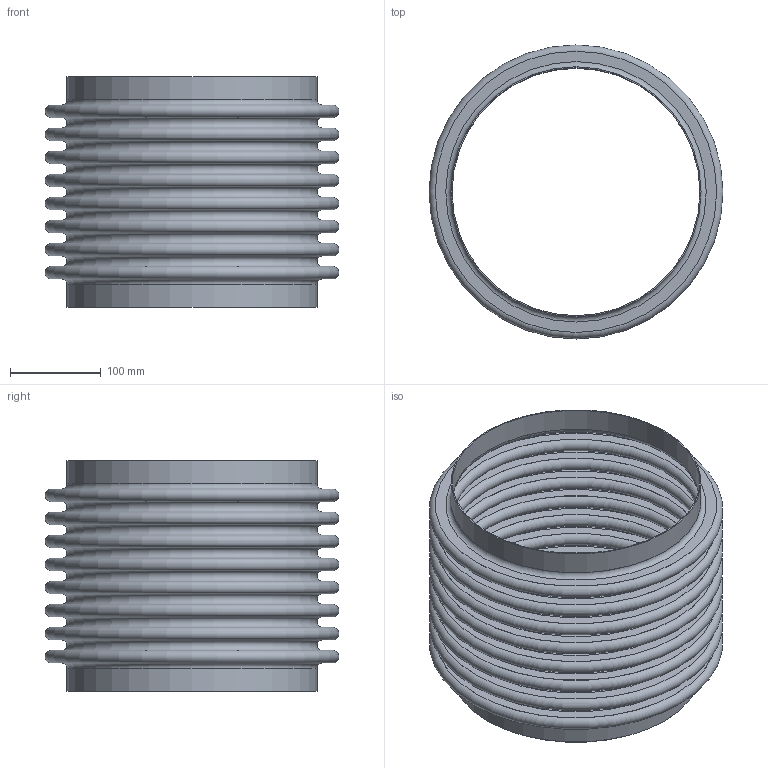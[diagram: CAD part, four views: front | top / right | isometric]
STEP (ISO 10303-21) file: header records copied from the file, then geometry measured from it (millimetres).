
FILE_DESCRIPTION(/* description */ ('STOCK BELLOWS: U.S-10-8-150S, 10.750 I.D., 12.750 O.D., 1 PLY, 18 GA (0.048 THICK), 8 CONS., 1.000 PITCH, 1.000 TANGENT. '),/* implementation_level */ '2;1');
FILE_NAME(/* name */ 'STOCK BELLOW - US-10-8-150S.stp',/* time_stamp */ '2026-07-21T13:03:04-05:00',/* author */ ('KennethB'),/* organization */ (''),/* preprocessor_version */ 'ST-DEVELOPER v20.1',/* originating_system */ 'Autodesk Inventor 2026',/* authorisation */ '');
FILE_SCHEMA (('AUTOMOTIVE_DESIGN { 1 0 10303 214 3 1 1 }'));
Length unit declared in the file: inch
Products named in the file (1): STOCK BELLOW - US-10-8-150S
Bounding box: 323.85 x 323.85 x 254 mm (x, y, z)
Volume: 628222.8 mm3; surface area: 1036852.3 mm2
Topology: 3 solids, 3 shells, 76 faces, 114 edges, 77 vertices
Faces by surface type: plane 38, torus 34, cylinder 4
Full cylindrical faces by diameter (mm): 273.05 x2, 275.488 x2
Entity records: 1814 total; most frequent: DIRECTION 378, CARTESIAN_POINT 268, ORIENTED_EDGE 228, AXIS2_PLACEMENT_3D 187, EDGE_LOOP 114, EDGE_CURVE 114, CIRCLE 110, FACE_OUTER_BOUND 76
